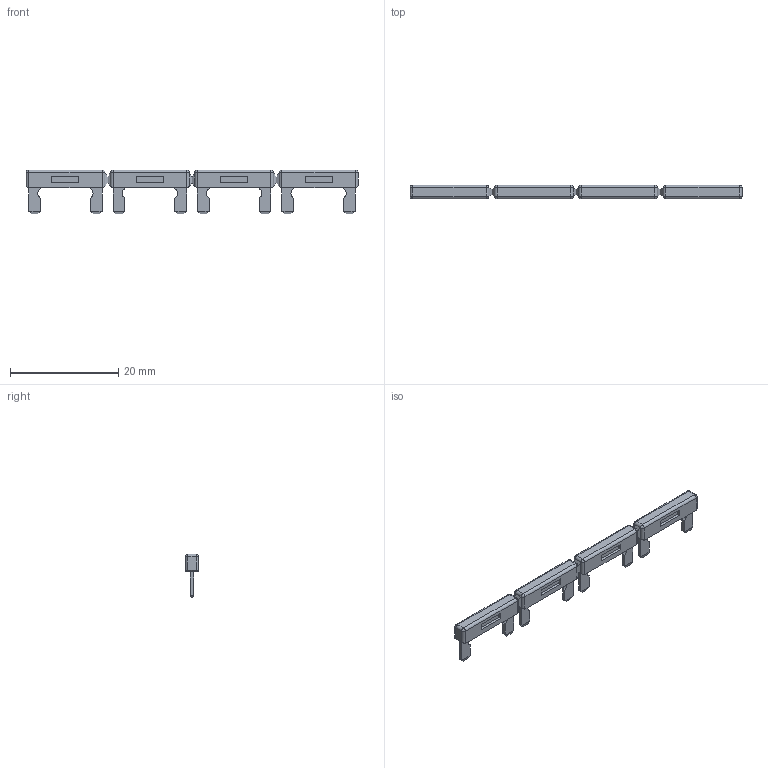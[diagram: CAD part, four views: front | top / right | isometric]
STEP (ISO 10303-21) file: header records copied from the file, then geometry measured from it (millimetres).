
FILE_DESCRIPTION (( 'STEP AP214' ), '1' );
FILE_NAME ('S10-BB.STEP', '2024-04-23T05:22:42', ( '' ), ( '' ), 'SwSTEP 2.0', 'SolidWorks 2022', '' );
FILE_SCHEMA (( 'AUTOMOTIVE_DESIGN' ));
Length unit declared in the file: millimetre
Products named in the file (1): S10-BB
Bounding box: 61.4 x 2.5 x 8.1 mm (x, y, z)
Volume: 499.1 mm3; surface area: 945.8 mm2
Topology: 1 solids, 1 shells, 230 faces, 529 edges, 294 vertices
Faces by surface type: plane 170, cylinder 44, bspline 16
Entity records: 7341 total; most frequent: CARTESIAN_POINT 1326, ORIENTED_EDGE 1026, DIRECTION 1001, EDGE_CURVE 513, LINE 423, VECTOR 423, VERTEX_POINT 294, AXIS2_PLACEMENT_3D 289
